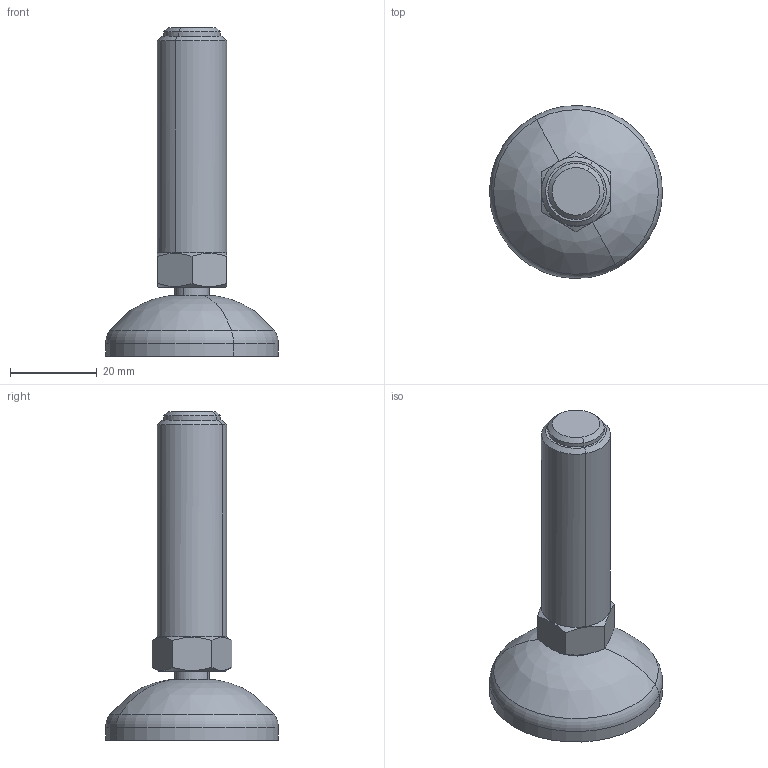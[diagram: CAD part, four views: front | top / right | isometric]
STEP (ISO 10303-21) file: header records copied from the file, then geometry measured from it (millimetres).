
FILE_DESCRIPTION(('CATIA V5 STEP Exchange'),'2;1');
FILE_NAME('C:\Users\dentellad\Desktop\P90301H_01.stp','2017-03-15T09:36:45+00:00',('none'),('none'),'Version 5-6 Release 2012','CATIA V5 STEP AP203','none');
FILE_SCHEMA(('CONFIG_CONTROL_DESIGN'));
Length unit declared in the file: millimetre
Products named in the file (1): P90301H_01
Assembly tree (2 placements, depth 2):
  P90301H_01
    #58
    #18127
Bounding box: 39.99 x 39.99 x 76 mm (x, y, z)
Volume: 19620.5 mm3; surface area: 9026.5 mm2
Topology: 2 solids, 2 shells, 559 faces, 1606 edges, 1057 vertices
Faces by surface type: plane 466, torus 30, cylinder 20, revolution 19, sphere 16, cone 8
Entity records: 18991 total; most frequent: CARTESIAN_POINT 6660, ORIENTED_EDGE 3200, EDGE_CURVE 1600, DIRECTION 1541, VERTEX_POINT 1057, B_SPLINE_CURVE_WITH_KNOTS 1007, AXIS2_PLACEMENT_3D 615, EDGE_LOOP 571
